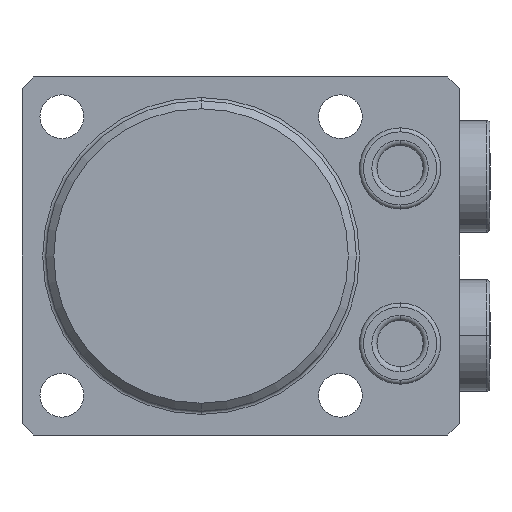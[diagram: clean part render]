
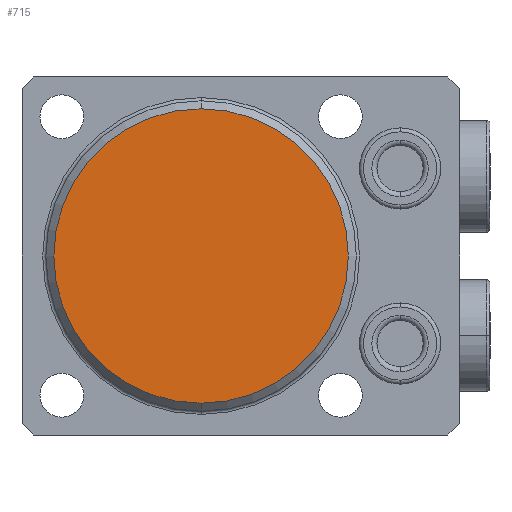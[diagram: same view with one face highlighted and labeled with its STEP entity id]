
A CAD part, front view. The second image highlights one B-rep face of the part: STEP entity #715.
In plain terms, the highlighted planar face has unit normal (0, -1, 0) as drawn and (0, 1, 0) by its records, which use the part's own axes.
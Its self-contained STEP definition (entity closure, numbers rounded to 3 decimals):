
#260=PLANE('',#5097);
#715=ADVANCED_FACE('',(#982),#260,.T.);
#982=FACE_OUTER_BOUND('',#1275,.F.);
#1275=EDGE_LOOP('',(#3000,#3001));
#3000=ORIENTED_EDGE('',*,*,#4255,.T.);
#3001=ORIENTED_EDGE('',*,*,#4146,.T.);
#3570=VERTEX_POINT('',#7809);
#3571=VERTEX_POINT('',#7810);
#4146=EDGE_CURVE('',#3570,#3571,#4554,.T.);
#4255=EDGE_CURVE('',#3571,#3570,#4581,.T.);
#4554=CIRCLE('',#5050,18.5);
#4581=CIRCLE('',#5096,18.5);
#5050=AXIS2_PLACEMENT_3D('',#7808,#6295,#6296);
#5096=AXIS2_PLACEMENT_3D('',#8103,#6444,#6445);
#5097=AXIS2_PLACEMENT_3D('',#8104,#6446,#6447);
#6295=DIRECTION('',(0.,-1.,0.));
#6296=DIRECTION('',(0.,0.,1.));
#6444=DIRECTION('',(0.,-1.,0.));
#6445=DIRECTION('',(0.,0.,1.));
#6446=DIRECTION('',(0.,1.,0.));
#6447=DIRECTION('',(0.,0.,1.));
#7808=CARTESIAN_POINT('',(0.,-33.5,0.));
#7809=CARTESIAN_POINT('',(0.,-33.5,-18.5));
#7810=CARTESIAN_POINT('',(0.,-33.5,18.5));
#8103=CARTESIAN_POINT('',(0.,-33.5,0.));
#8104=CARTESIAN_POINT('',(0.,-33.5,0.));
